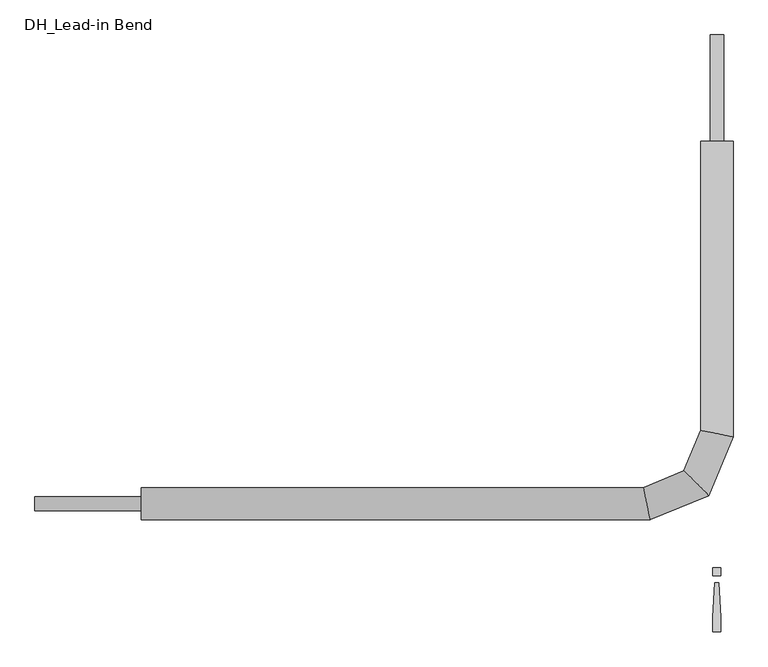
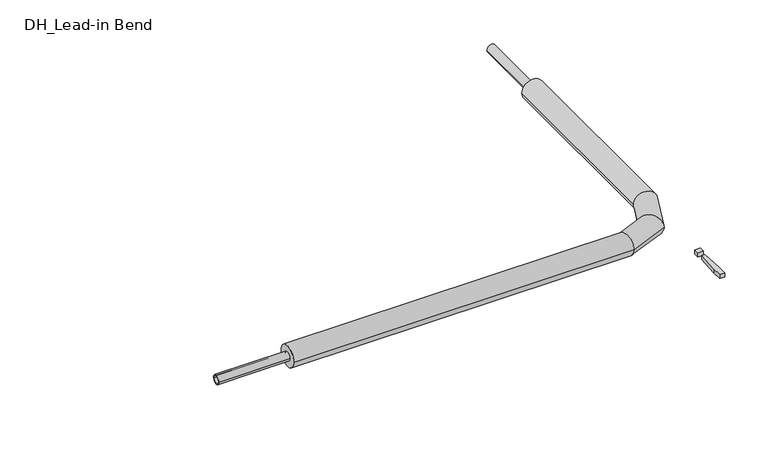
"""IFC4 building model written with IfcOpenShell, lengths in millimetres: pipe fitting geometry, DH_Lead-in Bend : RVT/RVX/RTX UNO 7.4 DW."""

from ifc_helpers import new_model, si_unit, point, frame, origin, origin_with_axes, origin_2d, place, context, project, spatial, polyline, circle_curve, ellipse_curve, trimmed, segment, composite_curve, outline, extrude, source, transform, mapped, element, save
from ifc_brep_helpers import plane_surface, cylinder_surface, advanced_brep


def dh_lead_in_bend_1756ac80(model_context):
    return source(origin(), model_context, "Body", "SolidModel", [
        advanced_brep(
        [(-1350.0, -38.0, 0.0), (-1350.0, 38.0, 0.0), (-157.44133, -38.0, 0.0), (-172.55867, 38.0, 0.0), (38.0, 850.0, 0.0), (-38.0, 850.0, 0.0), (-38.0, 172.55867, 0.0), (38.0, 157.44133, 0.0), (-19.2434402, 19.2434402, 0.0), (-77.411322, 77.411322, 0.0)],
        [
            (0, 1, circle_curve(frame((-1350.0, 0.0, 0.0), z_axis=(-1.0, 0.0, 0.0), x_axis=(0.0, 1.0, 0.0)), 38.0)),
            (1, 0, circle_curve(frame((-1350.0, 0.0, 0.0), z_axis=(-1.0, 0.0, 0.0), x_axis=(0.0, 1.0, 0.0)), 38.0)),
            (0, 2),
            (2, 3, ellipse_curve(frame((-165.0, 0.0, 0.0), z_axis=(-0.9807852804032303, -0.1950903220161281, 0.0), x_axis=(-0.1950903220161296, 0.9807852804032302, 0.0)), 38.744464, 38.0)),
            (3, 1),
            (3, 2, ellipse_curve(frame((-165.0, 0.0, 0.0), z_axis=(-0.9807852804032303, -0.1950903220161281, 0.0), x_axis=(-0.1950903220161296, 0.9807852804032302, 0.0)), 38.744464, 38.0)),
            (4, 5, circle_curve(frame((0.0, 850.0, 0.0), z_axis=(0.0, 1.0, 0.0), x_axis=(-1.0, 0.0, 0.0)), 38.0)),
            (5, 4, circle_curve(frame((0.0, 850.0, 0.0), z_axis=(0.0, 1.0, 0.0), x_axis=(-1.0, 0.0, 0.0)), 38.0)),
            (6, 7, ellipse_curve(frame((0.0, 165.0, 0.0), z_axis=(0.19509032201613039, 0.9807852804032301, 0.0), x_axis=(0.9807852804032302, -0.19509032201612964, 0.0)), 38.744464, 38.0)),
            (7, 4),
            (5, 6),
            (7, 6, ellipse_curve(frame((0.0, 165.0, 0.0), z_axis=(0.19509032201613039, 0.9807852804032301, 0.0), x_axis=(0.9807852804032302, -0.19509032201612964, 0.0)), 38.744464, 38.0)),
            (2, 8),
            (8, 9, ellipse_curve(frame((-48.3273811, 48.3273811, 0.0), z_axis=(-0.707106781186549, -0.7071067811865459, 0.0), x_axis=(-0.7071067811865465, 0.7071067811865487, 0.0)), 41.1309036, 38.0)),
            (9, 3),
            (9, 8, ellipse_curve(frame((-48.3273811, 48.3273811, 0.0), z_axis=(-0.707106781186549, -0.7071067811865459, 0.0), x_axis=(-0.7071067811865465, 0.7071067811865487, 0.0)), 41.1309036, 38.0)),
            (8, 7),
            (6, 9),
        ],
        [
            plane_surface(frame((-1350.0, 0.0, 0.0), z_axis=(-1.0, 0.0, 0.0), x_axis=(0.0, 0.0, 1.0))),
            cylinder_surface(frame((-1350.0, 0.0, 0.0), z_axis=(-1.0, 0.0, 0.0), x_axis=(0.0, 1.0, 0.0)), 38.0),
            plane_surface(frame((0.0, 850.0, 0.0), z_axis=(0.0, 1.0, 0.0), x_axis=(0.0, 0.0, 1.0))),
            cylinder_surface(frame((0.0, 165.0, 0.0), z_axis=(0.0, -1.0, 0.0), x_axis=(-1.0, 0.0, 0.0)), 38.0),
            cylinder_surface(frame((-165.0, 0.0, 0.0), z_axis=(-0.9238795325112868, -0.38268343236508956, 0.0), x_axis=(-0.38268343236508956, 0.9238795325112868, 0.0)), 38.0),
            cylinder_surface(frame((-48.3273811, 48.3273811, 0.0), z_axis=(-0.3826834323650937, -0.9238795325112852, 0.0), x_axis=(-0.9238795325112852, 0.3826834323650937, 0.0)), 38.0),
        ],
        [
            (0, [[1, 2]]),
            (1, [[-1, 3, 4, 5]]),
            (1, [[-2, -5, 6, -3]]),
            (2, [[7, 8]]),
            (3, [[9, 10, -8, 11]]),
            (3, [[12, -11, -7, -10]]),
            (4, [[-4, 13, 14, 15]]),
            (4, [[-6, -15, 16, -13]]),
            (5, [[-14, 17, -9, 18]]),
            (5, [[-16, -18, -12, -17]]),
        ],
    ),
        extrude(outline(polyline([(4.7088895, -185.3166715), (9.4177791, -266.6553807), (9.4177791, -300.6844652), (-9.4177791, -300.6844652), (-9.4177791, -266.6553807), (-4.7088895, -185.3166715), (4.7088895, -185.3166715)])), origin_with_axes(), (0.0, 0.0, 1.0), 15.0),
        extrude(outline(polyline([(9.4177791, -150.0), (9.4177791, -168.8355582), (-9.4177791, -168.8355582), (-9.4177791, -150.0), (9.4177791, -150.0)])), origin_with_axes(), (0.0, 0.0, 1.0), 15.0),
        extrude(outline(composite_curve([segment(trimmed(circle_curve(origin_2d(), 16.0), [point((-16.0, 0.0))], [point((16.0, 0.0))], False, "CARTESIAN"), True, "CONTINUOUS"), segment(trimmed(circle_curve(origin_2d(), 16.0), [point((16.0, 0.0))], [point((-16.0, 0.0))], False, "CARTESIAN"), True, "CONTINUOUS")], self_intersect=False), holes=[composite_curve([segment(trimmed(circle_curve(origin_2d(), 11.6), [point((-11.6, 0.0))], [point((11.6, 0.0))], True, "CARTESIAN"), True, "CONTINUOUS"), segment(trimmed(circle_curve(origin_2d(), 11.6), [point((11.6, 0.0))], [point((-11.6, 0.0))], True, "CARTESIAN"), True, "CONTINUOUS")], self_intersect=False)]), frame((-1600.0, 0.0, 0.0), z_axis=(1.0, 0.0, 0.0), x_axis=(0.0, 1.0, 0.0)), (0.0, 0.0, 1.0), 250.0),
        extrude(outline(composite_curve([segment(trimmed(circle_curve(origin_2d(), 16.0), [point((0.0, 16.0))], [point((0.0, -16.0))], False, "CARTESIAN"), True, "CONTINUOUS"), segment(trimmed(circle_curve(origin_2d(), 16.0), [point((0.0, -16.0))], [point((0.0, 16.0))], False, "CARTESIAN"), True, "CONTINUOUS")], self_intersect=False), holes=[composite_curve([segment(trimmed(circle_curve(origin_2d(), 11.6), [point((0.0, 11.6))], [point((0.0, -11.6))], True, "CARTESIAN"), True, "CONTINUOUS"), segment(trimmed(circle_curve(origin_2d(), 11.6), [point((0.0, -11.6))], [point((0.0, 11.6))], True, "CARTESIAN"), True, "CONTINUOUS")], self_intersect=False)]), frame((0.0, 850.0, 0.0), z_axis=(0.0, 1.0, 0.0), x_axis=(0.0, 0.0, 1.0)), (0.0, 0.0, 1.0), 250.0),
    ])


if __name__ == "__main__":
    model = new_model("IFC4")
    model_context = context("Model", 3, world=origin())
    ifc_project = project(units=[si_unit("LENGTHUNIT", "METRE", prefix="MILLI")], contexts=[model_context])
    site = spatial("IfcSite", under=ifc_project)
    building = spatial("IfcBuilding", under=site)
    placement = place(None, origin())
    dh_lead_in_bend_shape = dh_lead_in_bend_1756ac80(model_context)
    element("IfcPipeFitting", 1, ObjectType="DH_Lead-in Bend : RVT/RVX/RTX UNO 7.4 DW", at=placement, inside=building, context=model_context, shape_type="MappedRepresentation", body=[
        mapped(dh_lead_in_bend_shape, transform((0.0, 0.0, 0.0), x_axis=(1.0, 0.0, 0.0), y_axis=(0.0, 1.0, 0.0), z_axis=(0.0, 0.0, 1.0))),
    ])
    save(model, "model.ifc")
